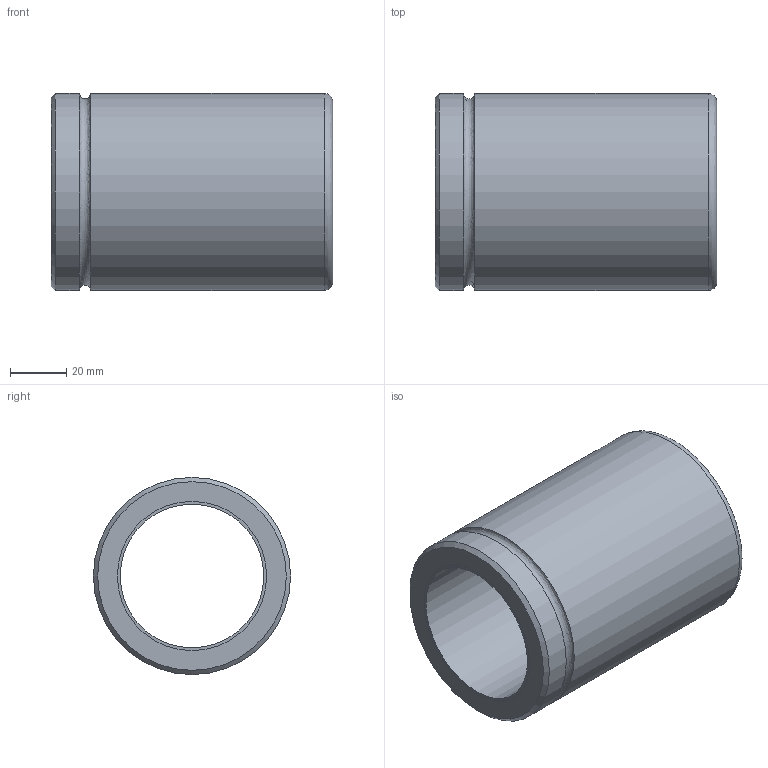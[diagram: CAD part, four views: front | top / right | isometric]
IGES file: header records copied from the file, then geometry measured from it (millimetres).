
Global section: file name: B4B51100.ipt; native system: Autodesk Inventor 2021; preprocessor: unknown; author: SM; date: 20220119.070904; units: millimetre
Bounding box: 100 x 70 x 70 mm (x, y, z)
Volume: 178472.7 mm3; surface area: 74793.2 mm2
Topology: 2 solids, 2 shells, 12 faces, 29 edges, 20 vertices
Faces by surface type: revolution 5, cylinder 3, plane 3, cone 1
Full cylindrical faces by diameter (mm): 53 x1, 70 x2
